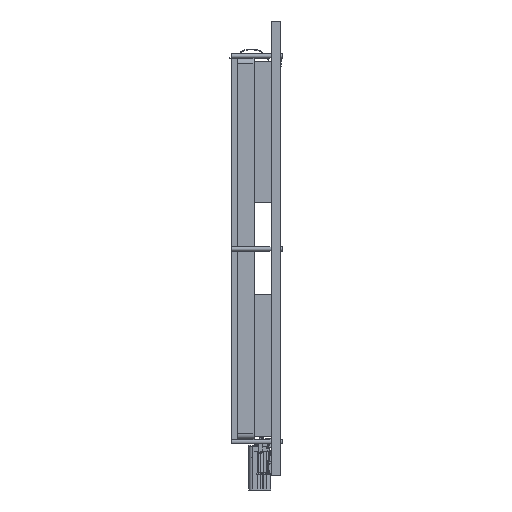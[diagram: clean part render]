
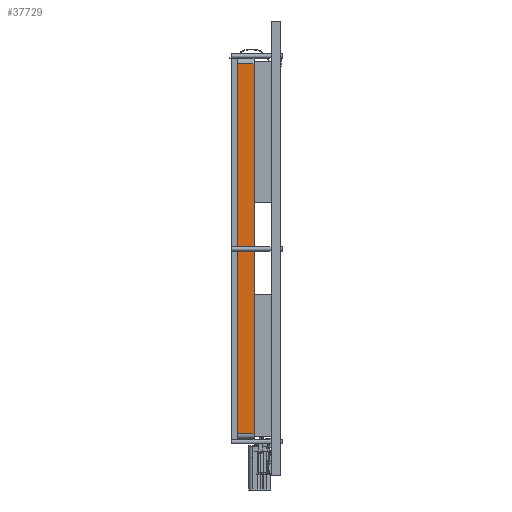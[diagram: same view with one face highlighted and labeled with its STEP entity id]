
A CAD part, left-side view. The second image highlights one B-rep face of the part: STEP entity #37729.
In plain terms, the highlighted planar face has unit normal (-1, 0, 0).
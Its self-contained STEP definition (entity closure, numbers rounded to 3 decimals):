
#2794 = ORIENTED_EDGE ( 'NONE', *, *, #44107, .F. ) ;
#3881 = DIRECTION ( 'NONE',  ( 0., -1., 0. ) ) ;
#4910 = DIRECTION ( 'NONE',  ( 0., 0., 1. ) ) ;
#9585 = VECTOR ( 'NONE', #3881, 1000. ) ;
#10329 = VECTOR ( 'NONE', #4910, 1000. ) ;
#11572 = VERTEX_POINT ( 'NONE', #44043 ) ;
#13240 = CARTESIAN_POINT ( 'NONE',  ( -51.19, 7.55, 43.815 ) ) ;
#14636 = AXIS2_PLACEMENT_3D ( 'NONE', #51636, #47905, #22497 ) ;
#15011 = CARTESIAN_POINT ( 'NONE',  ( -51.19, 7.55, 43.815 ) ) ;
#15065 = EDGE_LOOP ( 'NONE', ( #42567, #43564, #2794, #30018 ) ) ;
#18410 = LINE ( 'NONE', #31217, #49631 ) ;
#18885 = VERTEX_POINT ( 'NONE', #34201 ) ;
#20008 = VERTEX_POINT ( 'NONE', #13240 ) ;
#22497 = DIRECTION ( 'NONE',  ( 0., 0., -1. ) ) ;
#26959 = DIRECTION ( 'NONE',  ( 0., 0., 1. ) ) ;
#29348 = CARTESIAN_POINT ( 'NONE',  ( -51.19, 7.55, -21.385 ) ) ;
#29745 = CARTESIAN_POINT ( 'NONE',  ( -51.19, 4.6, -21.385 ) ) ;
#30018 = ORIENTED_EDGE ( 'NONE', *, *, #44532, .T. ) ;
#30344 = CARTESIAN_POINT ( 'NONE',  ( -51.19, 7.55, -22.385 ) ) ;
#31217 = CARTESIAN_POINT ( 'NONE',  ( -51.19, 4.6, -22.385 ) ) ;
#31329 = VERTEX_POINT ( 'NONE', #29745 ) ;
#31964 = DIRECTION ( 'NONE',  ( 0., 1., 0. ) ) ;
#32235 = LINE ( 'NONE', #29348, #9585 ) ;
#34201 = CARTESIAN_POINT ( 'NONE',  ( -51.19, 7.55, -21.385 ) ) ;
#36787 = FACE_OUTER_BOUND ( 'NONE', #15065, .T. ) ;
#37729 = ADVANCED_FACE ( 'NONE', ( #36787 ), #43642, .F. ) ;
#39512 = EDGE_CURVE ( 'NONE', #31329, #11572, #18410, .T. ) ;
#40790 = EDGE_CURVE ( 'NONE', #11572, #20008, #44349, .T. ) ;
#42567 = ORIENTED_EDGE ( 'NONE', *, *, #39512, .T. ) ;
#42888 = LINE ( 'NONE', #30344, #10329 ) ;
#43564 = ORIENTED_EDGE ( 'NONE', *, *, #40790, .T. ) ;
#43642 = PLANE ( 'NONE',  #14636 ) ;
#44043 = CARTESIAN_POINT ( 'NONE',  ( -51.19, 4.6, 43.815 ) ) ;
#44107 = EDGE_CURVE ( 'NONE', #18885, #20008, #42888, .T. ) ;
#44349 = LINE ( 'NONE', #15011, #54270 ) ;
#44532 = EDGE_CURVE ( 'NONE', #18885, #31329, #32235, .T. ) ;
#47905 = DIRECTION ( 'NONE',  ( 1., 0., 0. ) ) ;
#49631 = VECTOR ( 'NONE', #26959, 1000. ) ;
#51636 = CARTESIAN_POINT ( 'NONE',  ( -51.19, 7.55, -22.385 ) ) ;
#54270 = VECTOR ( 'NONE', #31964, 1000. ) ;
